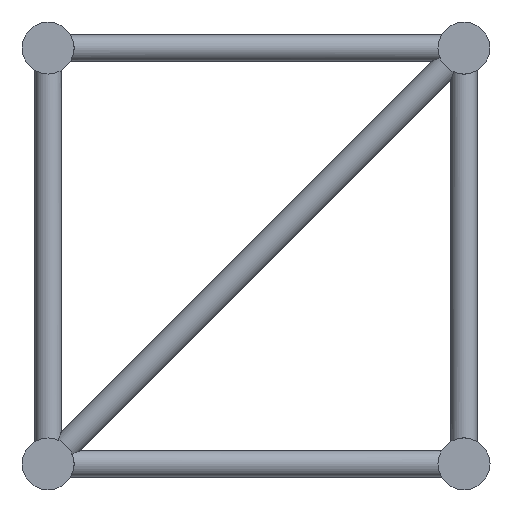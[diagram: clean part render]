
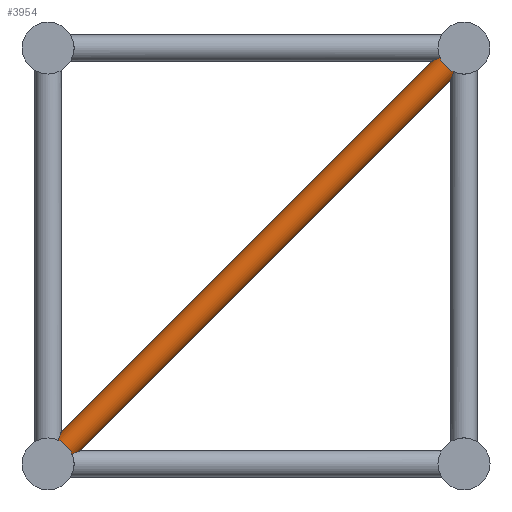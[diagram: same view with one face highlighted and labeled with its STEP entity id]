
A CAD part, left-side view. The second image highlights one B-rep face of the part: STEP entity #3954.
In plain terms, the highlighted cylindrical face has radius 15 mm (diameter 30 mm), a full revolution.
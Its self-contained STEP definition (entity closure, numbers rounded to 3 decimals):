
#574=FACE_BOUND('',#942,.T.);
#695=FACE_OUTER_BOUND('',#941,.T.);
#941=EDGE_LOOP('',(#2550,#2551,#2552,#2553));
#942=EDGE_LOOP('',(#2554,#2555,#2556,#2557));
#1311=CIRCLE('',#4233,15.);
#1312=CIRCLE('',#4235,15.);
#1313=CIRCLE('',#4237,15.);
#1314=CIRCLE('',#4239,15.);
#1502=ELLIPSE('',#4232,39.197,15.);
#1503=ELLIPSE('',#4234,39.197,15.);
#1504=ELLIPSE('',#4236,39.197,15.);
#1505=ELLIPSE('',#4238,39.197,15.);
#1608=VERTEX_POINT('',#5988);
#1609=VERTEX_POINT('',#5989);
#1610=VERTEX_POINT('',#5991);
#1611=VERTEX_POINT('',#5993);
#1612=VERTEX_POINT('',#5996);
#1613=VERTEX_POINT('',#5997);
#1614=VERTEX_POINT('',#5999);
#1615=VERTEX_POINT('',#6001);
#1992=EDGE_CURVE('',#1608,#1609,#1502,.T.);
#1993=EDGE_CURVE('',#1610,#1608,#1311,.T.);
#1994=EDGE_CURVE('',#1611,#1610,#1503,.T.);
#1995=EDGE_CURVE('',#1609,#1611,#1312,.T.);
#1996=EDGE_CURVE('',#1612,#1613,#1504,.T.);
#1997=EDGE_CURVE('',#1614,#1612,#1313,.T.);
#1998=EDGE_CURVE('',#1615,#1614,#1505,.T.);
#1999=EDGE_CURVE('',#1613,#1615,#1314,.T.);
#2550=ORIENTED_EDGE('',*,*,#1992,.F.);
#2551=ORIENTED_EDGE('',*,*,#1993,.F.);
#2552=ORIENTED_EDGE('',*,*,#1994,.F.);
#2553=ORIENTED_EDGE('',*,*,#1995,.F.);
#2554=ORIENTED_EDGE('',*,*,#1996,.F.);
#2555=ORIENTED_EDGE('',*,*,#1997,.F.);
#2556=ORIENTED_EDGE('',*,*,#1998,.F.);
#2557=ORIENTED_EDGE('',*,*,#1999,.F.);
#3638=CYLINDRICAL_SURFACE('',#4231,15.);
#3954=ADVANCED_FACE('',(#695,#574),#3638,.T.);
#4231=AXIS2_PLACEMENT_3D('',#5987,#4808,#4809);
#4232=AXIS2_PLACEMENT_3D('',#5990,#4810,#4811);
#4233=AXIS2_PLACEMENT_3D('',#5992,#4812,#4813);
#4234=AXIS2_PLACEMENT_3D('',#5994,#4814,#4815);
#4235=AXIS2_PLACEMENT_3D('',#5995,#4816,#4817);
#4236=AXIS2_PLACEMENT_3D('',#5998,#4818,#4819);
#4237=AXIS2_PLACEMENT_3D('',#6000,#4820,#4821);
#4238=AXIS2_PLACEMENT_3D('',#6002,#4822,#4823);
#4239=AXIS2_PLACEMENT_3D('',#6003,#4824,#4825);
#4808=DIRECTION('center_axis',(0.,-0.707,
0.707));
#4809=DIRECTION('ref_axis',(0.,0.707,0.707));
#4810=DIRECTION('center_axis',(0.,-0.924,
-0.383));
#4811=DIRECTION('ref_axis',(0.,-0.383,0.924));
#4812=DIRECTION('center_axis',(0.,-0.707,
0.707));
#4813=DIRECTION('ref_axis',(0.,0.707,0.707));
#4814=DIRECTION('center_axis',(0.,0.383,
0.924));
#4815=DIRECTION('ref_axis',(0.,0.924,-0.383));
#4816=DIRECTION('center_axis',(0.,-0.707,
0.707));
#4817=DIRECTION('ref_axis',(0.,0.707,0.707));
#4818=DIRECTION('center_axis',(0.,0.924,0.383));
#4819=DIRECTION('ref_axis',(0.,-0.383,0.924));
#4820=DIRECTION('center_axis',(0.,0.707,-0.707));
#4821=DIRECTION('ref_axis',(0.,0.707,0.707));
#4822=DIRECTION('center_axis',(0.,-0.383,
-0.924));
#4823=DIRECTION('ref_axis',(0.,0.924,-0.383));
#4824=DIRECTION('center_axis',(0.,0.707,-0.707));
#4825=DIRECTION('ref_axis',(0.,0.707,0.707));
#5987=CARTESIAN_POINT('Origin',(95.,452.322,-452.322));
#5988=CARTESIAN_POINT('',(84.148,10.355,-25.));
#5989=CARTESIAN_POINT('',(105.852,10.355,-25.));
#5990=CARTESIAN_POINT('Origin',(95.,0.,0.));
#5991=CARTESIAN_POINT('',(84.148,25.,-10.355));
#5992=CARTESIAN_POINT('Origin',(95.,17.678,-17.678));
#5993=CARTESIAN_POINT('',(105.852,25.,-10.355));
#5994=CARTESIAN_POINT('Origin',(95.,0.,0.));
#5995=CARTESIAN_POINT('Origin',(95.,17.678,-17.678));
#5996=CARTESIAN_POINT('',(84.148,459.645,-445.));
#5997=CARTESIAN_POINT('',(105.852,459.645,-445.));
#5998=CARTESIAN_POINT('Origin',(95.,470.,-470.));
#5999=CARTESIAN_POINT('',(84.148,445.,-459.645));
#6000=CARTESIAN_POINT('Origin',(95.,452.322,-452.322));
#6001=CARTESIAN_POINT('',(105.852,445.,-459.645));
#6002=CARTESIAN_POINT('Origin',(95.,470.,-470.));
#6003=CARTESIAN_POINT('Origin',(95.,452.322,-452.322));
